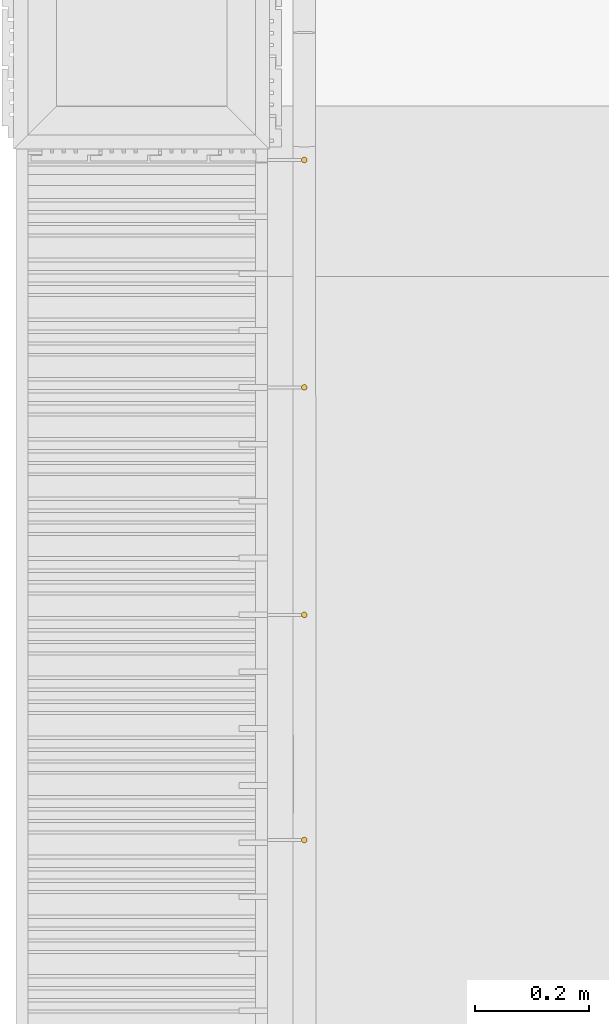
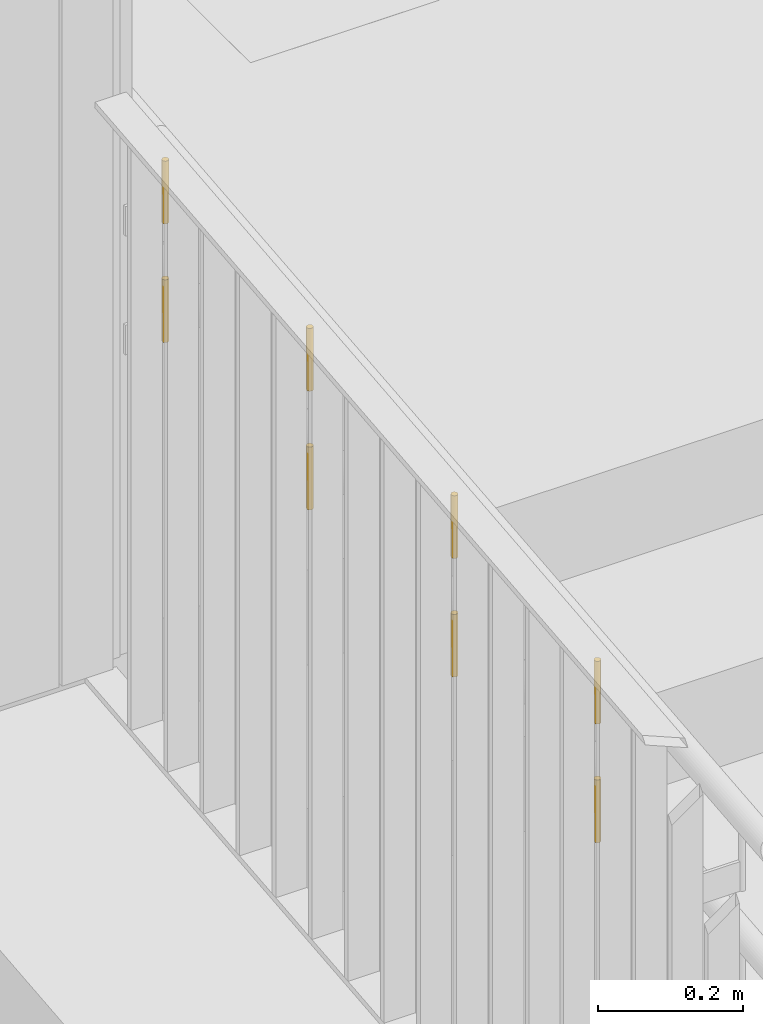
# One storey, part 157 of 418: 8 railings.
"""IFC2X3 building model written with IfcOpenShell, lengths in millimetres."""

from ifc_helpers import new_model, entity, si_unit, converted_unit, derived_unit, money_unit, direction, frame, origin_with_axes, origin_2d_with_axis, place, context, subcontext, project, spatial, circle, extrude, material, type_object, element, save


model = new_model("IFC2X3")

# Units and contexts
model_context = context("Model", 3, precision=0.01, world=origin_with_axes(), true_north=direction((0.0, 1.0)))
body_context = subcontext(model_context, "Body", "Model", "MODEL_VIEW")
ifc_project = project(units=[si_unit("LENGTHUNIT", "METRE", prefix="MILLI"), si_unit("AREAUNIT", "SQUARE_METRE"), si_unit("VOLUMEUNIT", "CUBIC_METRE"), converted_unit("PLANEANGLEUNIT", "DEGREE", entity("IfcPlaneAngleMeasure", 0.0174532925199), si_unit("PLANEANGLEUNIT", "RADIAN"), dimensions=[0, 0, 0, 0, 0, 0, 0]), si_unit("SOLIDANGLEUNIT", "STERADIAN"), money_unit("EUR"), converted_unit("TIMEUNIT", "Year", entity("IfcTimeMeasure", 31556926.0), si_unit("TIMEUNIT", "SECOND"), dimensions=[0, 0, 1, 0, 0, 0, 0]), si_unit("MASSUNIT", "GRAM", prefix="KILO"), si_unit("THERMODYNAMICTEMPERATUREUNIT", "DEGREE_CELSIUS"), si_unit("LUMINOUSINTENSITYUNIT", "LUMEN"), si_unit("ENERGYUNIT", "JOULE", prefix="MEGA"), derived_unit("THERMALCONDUCTANCEUNIT", [(si_unit("POWERUNIT", "WATT"), 1), (si_unit("LENGTHUNIT", "METRE"), -1), (si_unit("THERMODYNAMICTEMPERATUREUNIT", "KELVIN"), -1)]), derived_unit("SPECIFICHEATCAPACITYUNIT", [(si_unit("ENERGYUNIT", "JOULE"), 1), (si_unit("MASSUNIT", "GRAM", prefix="KILO"), -1), (si_unit("THERMODYNAMICTEMPERATUREUNIT", "KELVIN"), -1)]), derived_unit("MASSDENSITYUNIT", [(si_unit("MASSUNIT", "GRAM", prefix="KILO"), 1), (si_unit("VOLUMEUNIT", "CUBIC_METRE"), -1)])], contexts=[model_context])

# Site, building, storey
site_placement = place(None, origin_with_axes())
site = spatial("IfcSite", under=ifc_project, at=site_placement, Name="Paldiski mnt 245/1, Tallinn, Harjumaa", CompositionType="COMPLEX")
building_placement = place(site_placement, origin_with_axes())
building = spatial("IfcBuilding", under=site, at=building_placement, Name="RKAS Hoone üldnimetus (kasutust iseloomustav) -> IFC Project Manager -> SOLIBRI", CompositionType="ELEMENT")
storey_placement = place(building_placement, origin_with_axes())
storey = spatial("IfcBuildingStorey", under=building, at=storey_placement, Name="Esimene korrus", CompositionType="ELEMENT", Elevation=0.0)

# Railings
ifc_material = material(Name="ET-07_Teras - Roostevaba")
railing_type = type_object("IfcRailingType", Name="ET-07_Teras - Roostevaba D10", PredefinedType="NOTDEFINED")
for number, where, z_axis, x_axis in (
    (1, (-44054.0, -15725.0901323, 484.378560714), (0.0, 0.0, 1.0), (-1.0, 0.0, 0.0)),
    (2, (-44054.0, -15725.0901323, 684.800460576), (0.0, 0.0, 1.0), (-1.0, 0.0, 0.0)),
    (3, (-44054.0, -15325.0901323, 524.378591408), (0.0, 0.0, 1.0), (-1.0, 0.0, 0.0)),
    (4, (-44054.0, -15325.0901323, 724.80049127), (0.0, 0.0, 1.0), (-1.0, 0.0, 0.0)),
    (5, (-44054.0, -16521.0901323, 404.778511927), (0.0, 0.0, 1.0), (-1.0, 0.0, 0.0)),
    (6, (-44054.0, -16521.0901323, 605.200411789), (0.0, 0.0, 1.0), (-1.0, 0.0, 0.0)),
    (7, (-44054.0, -16125.0901323, 644.800438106), (0.0, 0.0, 1.0), (-1.0, 0.0, 0.0)),
    (8, (-44054.0, -16125.0901323, 444.378538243), (0.0, 0.0, 1.0), (-1.0, 0.0, 0.0)),
):
    element("IfcRailing", number, at=place(storey_placement, frame(where, z_axis=z_axis, x_axis=x_axis)), inside=storey, type_object=railing_type, material=ifc_material, Name="Trepipiire", PredefinedType="NOTDEFINED", context=body_context, shape_type="SweptSolid", body=[
        extrude(circle(Radius=5.0, at=origin_2d_with_axis()), frame((0.0, 0.0, 0.0), z_axis=(0.0, 0.0, -1.0), x_axis=(-1.0, 0.0, 0.0)), (0.0, 0.0, -1.0), 106.0),
    ])

save(model, "model.ifc")
